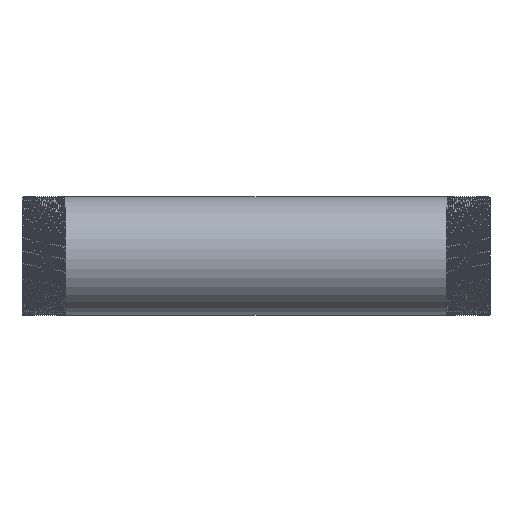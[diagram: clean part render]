
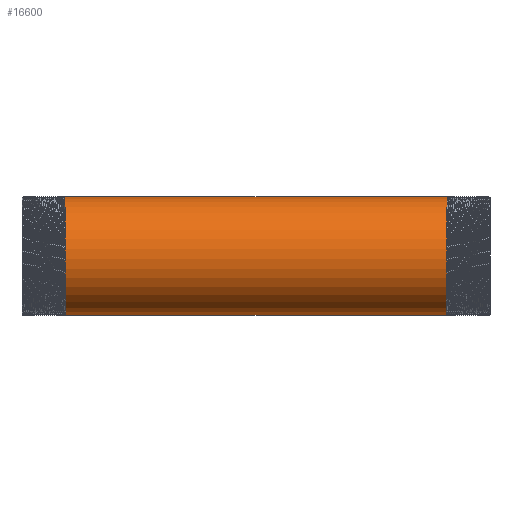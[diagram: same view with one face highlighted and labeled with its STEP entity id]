
A CAD part, front view. The second image highlights one B-rep face of the part: STEP entity #16600.
In plain terms, the highlighted cylindrical face has radius 38.05 mm (diameter 76.1 mm), a partial arc.
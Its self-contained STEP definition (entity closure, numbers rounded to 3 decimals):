
#811 = ORIENTED_EDGE ( 'NONE', *, *, #12810, .F. ) ;
#904 = ORIENTED_EDGE ( 'NONE', *, *, #4169, .T. ) ;
#910 = CARTESIAN_POINT ( 'NONE',  ( -122.453, -15.761, 38.05 ) ) ;
#1266 = CARTESIAN_POINT ( 'NONE',  ( 122.141, -38.05, -15.761 ) ) ;
#1407 = VERTEX_POINT ( 'NONE', #1516 ) ;
#1516 = CARTESIAN_POINT ( 'NONE',  ( -122.531, 0., 38.05 ) ) ;
#1561 = VERTEX_POINT ( 'NONE', #10523 ) ;
#1756 = EDGE_CURVE ( 'NONE', #8944, #18446, #18702, .T. ) ;
#1895 = DIRECTION ( 'NONE',  ( -1., 0., 0. ) ) ;
#2375 = CARTESIAN_POINT ( 'NONE',  ( 121.906, 0., -38.05 ) ) ;
#2774 = CYLINDRICAL_SURFACE ( 'NONE', #17507, 38.05 ) ;
#2893 = CARTESIAN_POINT ( 'NONE',  ( 122.297, -38.05, 15.761 ) ) ;
#3414 = CARTESIAN_POINT ( 'NONE',  ( -149.494, 0., -38.05 ) ) ;
#4157 = CARTESIAN_POINT ( 'NONE',  ( -121.906, 0., -38.05 ) ) ;
#4169 = EDGE_CURVE ( 'NONE', #8944, #1561, #16922, .T. ) ;
#4313 = CARTESIAN_POINT ( 'NONE',  ( 122.063, -26.905, -26.905 ) ) ;
#4616 = CARTESIAN_POINT ( 'NONE',  ( 122.531, 0., 38.05 ) ) ;
#5447 = EDGE_CURVE ( 'NONE', #1561, #1407, #11883, .T. ) ;
#5574 = CARTESIAN_POINT ( 'NONE',  ( -122.141, -38.05, -15.761 ) ) ;
#7331 = CARTESIAN_POINT ( 'NONE',  ( -149.494, 0., 0. ) ) ;
#7372 = ORIENTED_EDGE ( 'NONE', *, *, #1756, .F. ) ;
#7873 = VECTOR ( 'NONE', #13199, 1000. ) ;
#8530 = CARTESIAN_POINT ( 'NONE',  ( -122.375, -26.905, 26.905 ) ) ;
#8725 = CARTESIAN_POINT ( 'NONE',  ( -122.063, -26.905, -26.905 ) ) ;
#8944 = VERTEX_POINT ( 'NONE', #2375 ) ;
#10244 = CARTESIAN_POINT ( 'NONE',  ( -122.297, -38.05, 15.761 ) ) ;
#10496 = CARTESIAN_POINT ( 'NONE',  ( 121.984, -15.761, -38.05 ) ) ;
#10523 = CARTESIAN_POINT ( 'NONE',  ( 122.531, 0., 38.05 ) ) ;
#10699 = CARTESIAN_POINT ( 'NONE',  ( 122.375, -26.905, 26.905 ) ) ;
#11309 = CARTESIAN_POINT ( 'NONE',  ( -121.906, 0., -38.05 ) ) ;
#11776 = CARTESIAN_POINT ( 'NONE',  ( -122.531, 0., 38.05 ) ) ;
#11883 = LINE ( 'NONE', #14713, #7873 ) ;
#12207 = FACE_OUTER_BOUND ( 'NONE', #12781, .T. ) ;
#12781 = EDGE_LOOP ( 'NONE', ( #7372, #904, #19557, #811 ) ) ;
#12810 = EDGE_CURVE ( 'NONE', #18446, #1407, #15512, .T. ) ;
#13199 = DIRECTION ( 'NONE',  ( -1., 0., 0. ) ) ;
#13612 = DIRECTION ( 'NONE',  ( -1., 0., 0. ) ) ;
#13627 = CARTESIAN_POINT ( 'NONE',  ( 121.906, 0., -38.05 ) ) ;
#14713 = CARTESIAN_POINT ( 'NONE',  ( -149.494, 0., 38.05 ) ) ;
#15512 =( BOUNDED_CURVE ( )  B_SPLINE_CURVE ( 2, ( #4157, #19453, #8725, #5574, #18119, #10244, #8530, #910, #11776 ),
 .UNSPECIFIED., .F., .F. ) 
 B_SPLINE_CURVE_WITH_KNOTS ( ( 3, 2, 2, 2, 3 ),
 ( 0., 0.005, 0.011, 0.016, 0.022 ),
 .UNSPECIFIED. ) 
 CURVE ( )  GEOMETRIC_REPRESENTATION_ITEM ( )  RATIONAL_B_SPLINE_CURVE ( ( 1., 0.924, 1., 0.924, 1., 0.924, 1., 0.924, 1. ) ) 
 REPRESENTATION_ITEM ( '' )  );
#16600 = ADVANCED_FACE ( 'NONE', ( #12207 ), #2774, .T. ) ;
#16900 = VECTOR ( 'NONE', #1895, 1000. ) ;
#16922 =( BOUNDED_CURVE ( )  B_SPLINE_CURVE ( 2, ( #13627, #10496, #4313, #1266, #19707, #2893, #10699, #18581, #4616 ),
 .UNSPECIFIED., .F., .T. ) 
 B_SPLINE_CURVE_WITH_KNOTS ( ( 3, 2, 2, 2, 3 ),
 ( 0., 0.005, 0.011, 0.016, 0.022 ),
 .UNSPECIFIED. ) 
 CURVE ( )  GEOMETRIC_REPRESENTATION_ITEM ( )  RATIONAL_B_SPLINE_CURVE ( ( 1., 0.924, 1., 0.924, 1., 0.924, 1., 0.924, 1. ) ) 
 REPRESENTATION_ITEM ( '' )  );
#17507 = AXIS2_PLACEMENT_3D ( 'NONE', #7331, #13612, #19894 ) ;
#18119 = CARTESIAN_POINT ( 'NONE',  ( -122.219, -38.05, 0. ) ) ;
#18446 = VERTEX_POINT ( 'NONE', #11309 ) ;
#18581 = CARTESIAN_POINT ( 'NONE',  ( 122.453, -15.761, 38.05 ) ) ;
#18702 = LINE ( 'NONE', #3414, #16900 ) ;
#19453 = CARTESIAN_POINT ( 'NONE',  ( -121.984, -15.761, -38.05 ) ) ;
#19557 = ORIENTED_EDGE ( 'NONE', *, *, #5447, .T. ) ;
#19707 = CARTESIAN_POINT ( 'NONE',  ( 122.219, -38.05, 0. ) ) ;
#19894 = DIRECTION ( 'NONE',  ( 0., 0., 1. ) ) ;
